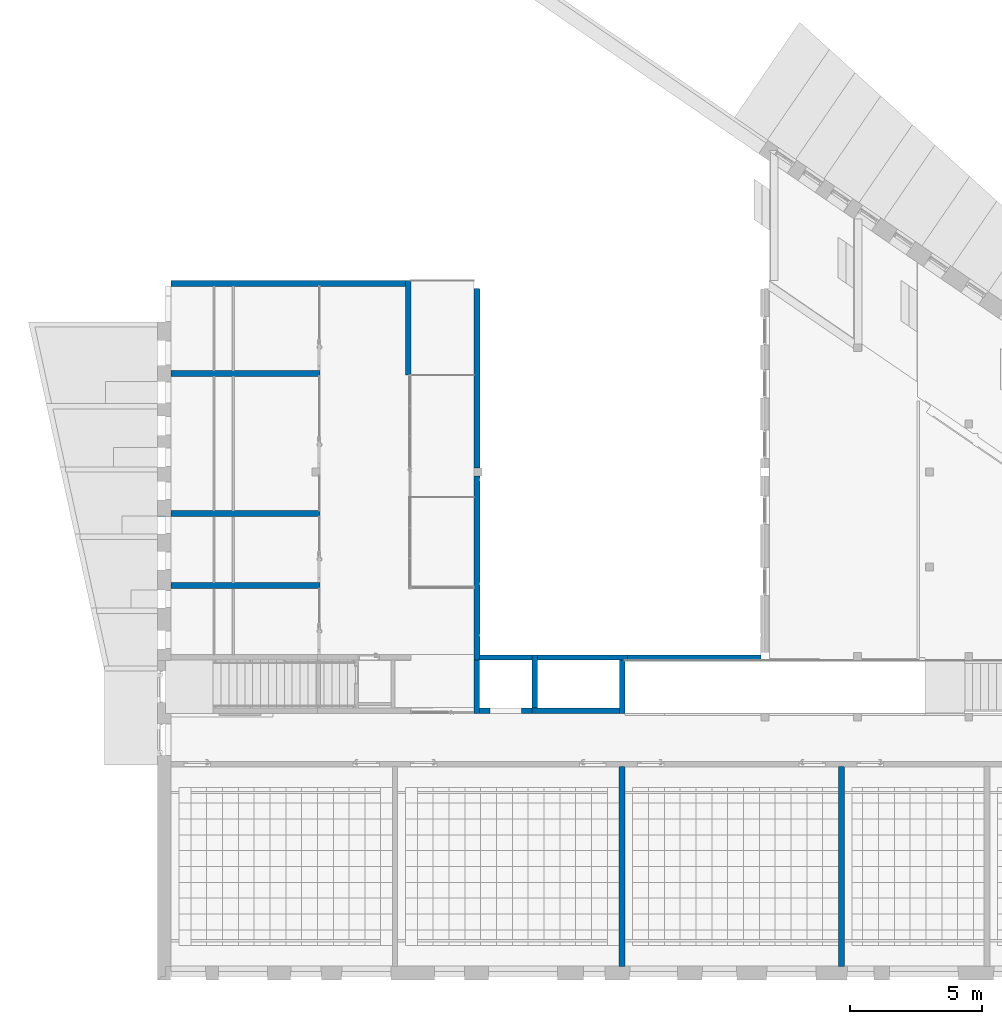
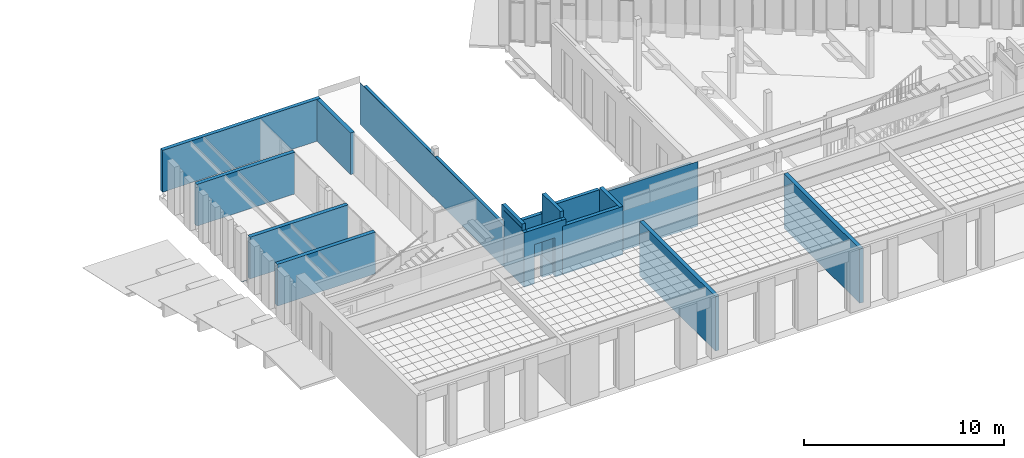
# One storey, part 40 of 79: 16 walls, 1 opening.
"""IFC2X3 building model written with IfcOpenShell, lengths in millimetres."""

from ifc_helpers import new_model, entity, si_unit, converted_unit, derived_unit, money_unit, direction, frame, origin_with_axes, place, context, subcontext, project, spatial, faceted_brep, material, material_list, type_object, element, save


model = new_model("IFC2X3")

# Units and contexts
model_context = context("Model", 3, precision=0.01, world=origin_with_axes(), true_north=direction((0.0, 1.0)))
body_context = subcontext(model_context, "Body", "Model", "MODEL_VIEW")
ifc_project = project(units=[si_unit("LENGTHUNIT", "METRE", prefix="MILLI"), si_unit("AREAUNIT", "SQUARE_METRE"), si_unit("VOLUMEUNIT", "CUBIC_METRE"), converted_unit("PLANEANGLEUNIT", "DEGREE", entity("IfcPlaneAngleMeasure", 0.0174532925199), si_unit("PLANEANGLEUNIT", "RADIAN"), dimensions=[0, 0, 0, 0, 0, 0, 0]), si_unit("SOLIDANGLEUNIT", "STERADIAN"), money_unit("EUR"), converted_unit("TIMEUNIT", "Year", entity("IfcTimeMeasure", 31556926.0), si_unit("TIMEUNIT", "SECOND"), dimensions=[0, 0, 1, 0, 0, 0, 0]), si_unit("MASSUNIT", "GRAM", prefix="KILO"), si_unit("THERMODYNAMICTEMPERATUREUNIT", "DEGREE_CELSIUS"), si_unit("LUMINOUSINTENSITYUNIT", "LUMEN"), si_unit("ENERGYUNIT", "JOULE", prefix="MEGA"), derived_unit("THERMALCONDUCTANCEUNIT", [(si_unit("POWERUNIT", "WATT"), 1), (si_unit("LENGTHUNIT", "METRE"), -1), (si_unit("THERMODYNAMICTEMPERATUREUNIT", "KELVIN"), -1)]), derived_unit("SPECIFICHEATCAPACITYUNIT", [(si_unit("ENERGYUNIT", "JOULE"), 1), (si_unit("MASSUNIT", "GRAM", prefix="KILO"), -1), (si_unit("THERMODYNAMICTEMPERATUREUNIT", "KELVIN"), -1)]), derived_unit("MASSDENSITYUNIT", [(si_unit("MASSUNIT", "GRAM", prefix="KILO"), 1), (si_unit("VOLUMEUNIT", "CUBIC_METRE"), -1)])], contexts=[model_context])

# Site, building, storey
site_placement = place(None, origin_with_axes())
site = spatial("IfcSite", under=ifc_project, at=site_placement, Name="L.Koidula tn 11b", CompositionType="ELEMENT")
building_placement = place(site_placement, origin_with_axes())
building = spatial("IfcBuilding", under=site, at=building_placement, Name="Rakvere Riigigümnaasium", CompositionType="ELEMENT")
storey_placement = place(building_placement, frame((0.0, 0.0, 3720.0), z_axis=(0.0, 0.0, 1.0), x_axis=(1.0, 0.0, 0.0)))
storey = spatial("IfcBuildingStorey", under=building, at=storey_placement, Name="2.korrus +3,72", CompositionType="ELEMENT", Elevation=3720.0)

# Walls
ifc_material_1 = material(Name="Betoon element / plaat")
wall_type_1 = type_object("IfcWallType", Name="SS-01 200", PredefinedType="NOTDEFINED")
wall_1_placement = place(storey_placement, frame((52499.9999937, 17110.4555095, -1395.0), z_axis=(0.0, 0.0, 1.0), x_axis=(-1.0, 0.0, 0.0)))
element("IfcWall", 1, at=wall_1_placement, inside=storey, type_object=wall_type_1, material=ifc_material_1, Name="Sisesein", context=body_context, shape_type="Brep", body=[
    faceted_brep([(0.0, -200.0, 4197.4514176), (0.0, -200.0, 3890.0), (-310.0, -200.0, 3890.0), (-310.0, -200.0, 0.0), (3299.99999988, -200.0, 0.0), (3299.99999988, -200.0, 1395.0), (3100.00000001, -200.0, 1395.0), (3100.00000001, -200.0, 4197.4514176), (0.0, 2.82014411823e-08, 3890.0), (0.0, 0.0, 4197.4514176), (0.0, 2.82014411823e-08, 3945.0), (-310.0, 2.60769184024e-08, 3890.0), (-310.0, 0.0, 0.0), (3299.99999988, 0.0, 0.0), (3299.99999988, 0.0, 1395.0), (3100.00000001, 0.0, 1395.0), (3100.00000001, 0.0, 4197.4514176)], [[[0, 1, 2, 3, 4, 5, 6, 7]], [[8, 1, 0, 9, 10]], [[8, 11, 2, 1]], [[3, 2, 11, 12]], [[4, 3, 12, 13]], [[4, 13, 14, 5]], [[14, 15, 6, 5]], [[6, 15, 16, 7]], [[7, 16, 9, 0]], [[11, 8, 10, 9, 16, 15, 14, 13, 12]]]),
])
wall_2_placement = place(storey_placement, frame((49199.9999938, 17110.4555095, 0.0), z_axis=(0.0, 0.0, 1.0), x_axis=(-1.0, 0.0, 0.0)))
element("IfcWall", 2, at=wall_2_placement, inside=storey, type_object=wall_type_1, material=ifc_material_1, Name="Sisesein", context=body_context, shape_type="Brep", body=[
    faceted_brep([(2000.00000003, -200.0, 0.0), (2000.00000003, -200.0, 2495.0), (1.29396937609e-07, -200.0, 2495.0), (1.29396937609e-07, -200.0, 0.0), (2000.00000003, 0.0, 0.0), (2000.00000003, -2.51142040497e-06, 2495.0), (1.29396937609e-07, -2.52511966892e-06, 2495.0), (1.29396937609e-07, 0.0, 0.0)], [[[0, 1, 2, 3]], [[4, 5, 1, 0]], [[5, 6, 2, 1]], [[3, 2, 6, 7]], [[4, 0, 3, 7]], [[7, 6, 5, 4]]]),
])
wall_3_placement = place(storey_placement, frame((49199.9999937, 15100.4785302, 0.0), z_axis=(0.0, 0.0, 1.0), x_axis=(0.0, 1.0, 0.0)))
element("IfcWall", 3, at=wall_3_placement, inside=storey, type_object=wall_type_1, material=ifc_material_1, Name="Sisesein", context=body_context, shape_type="Brep", body=[
    faceted_brep([(2209.97697926, 0.0, 0.0), (2209.97697926, -1.15200293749e-07, 2495.0), (2209.97697926, -200.000000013, 2495.0), (2209.97697926, -200.0, 0.0), (2009.97698179, -1.29396937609e-07, 2802.4514176), (2009.97698179, 0.0, 2495.0), (200.001660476, 0.0, 0.0), (200.001660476, 0.0, 2945.0), (0.00168146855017, 0.0, 2945.0), (0.0, 0.0, 3325.0), (199.253246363, 0.0, 3325.0), (199.253246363, 0.0, 3720.0), (2009.97698659, 0.0, 3720.0), (2009.97697926, -1.29396937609e-07, 2945.0), (2009.97698179, -200.000000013, 2495.0), (2009.97698179, -200.000000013, 2802.4514176), (2009.97698618, -200.0, 3720.0), (199.253246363, -200.0, 3720.0), (199.253246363, -200.0, 3325.0), (0.0, -200.0, 3325.0), (0.00168261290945, -200.0, 2945.0), (200.001565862, -200.0, 2945.0), (200.001565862, -200.0, 0.0)], [[[0, 1, 2, 3]], [[4, 5, 1, 0, 6, 7, 8, 9, 10, 11, 12, 13]], [[5, 14, 2, 1]], [[2, 14, 15, 16, 17, 18, 19, 20, 21, 22, 3]], [[0, 3, 22, 6]], [[16, 15, 14, 5, 4, 13, 12]], [[7, 6, 22, 21]], [[8, 7, 21, 20]], [[20, 19, 9, 8]], [[9, 19, 18, 10]], [[17, 11, 10, 18]], [[12, 11, 17, 16]]]),
])
ifc_material_2 = material(Name="siseviimistlus-seinad")
ifc_material_list_1 = material_list([ifc_material_2, ifc_material_1, ifc_material_2])
wall_type_2 = type_object("IfcWallType", Name="SS-01-2 220", PredefinedType="NOTDEFINED")
wall_4_placement = place(storey_placement, frame((46999.9999935, 17110.4555095, 0.0), z_axis=(0.0, 0.0, 1.0), x_axis=(0.0, 1.0, 0.0)))
element("IfcWall", 4, at=wall_4_placement, inside=storey, type_object=wall_type_2, material=ifc_material_list_1, Name="Sisesein", context=body_context, shape_type="Brep", body=[
    faceted_brep([(14390.0000057, 10.0, 2549.99998033), (200.0, 10.0, 2549.99998082), (200.0, 0.0, 2549.99998082), (14390.0000057, 0.0, 2549.99998033), (14389.9999908, 10.0, 0.0), (200.0, 10.0, 0.0), (14390.0000057, 10.0, 2495.0), (200.0, 0.0, 0.0), (14389.9999908, 0.0, 0.0)], [[[0, 1, 2, 3]], [[4, 5, 1, 0, 6]], [[5, 7, 2, 1]], [[3, 2, 7, 8]], [[8, 4, 6, 0, 3]], [[8, 7, 5, 4]]]),
    faceted_brep([(6990.00003772, -200.0, 0.0), (6990.00003772, -200.0, 2495.0), (2.51142040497e-06, -200.0, 2495.0), (0.0, -200.0, 0.0), (6990.00003772, -0.00139961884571, 2495.0), (6990.00003772, -0.00139961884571, 0.0), (2.51004905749e-06, -2.74283706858e-07, 2495.0), (0.0, 0.0, 0.0)], [[[0, 1, 2, 3]], [[4, 1, 0, 5]], [[1, 4, 6, 2]], [[3, 2, 6, 7]], [[5, 0, 3, 7]], [[4, 5, 7, 6]]]),
    faceted_brep([(14089.999985, -200.0, 0.0), (14089.999985, -200.0, 2495.0), (7290.00003772, -200.0, 2495.0), (7290.00003772, -200.0, 0.0), (14089.999985, -6.95239350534e-05, 2495.0), (14089.999985, -6.95239350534e-05, 0.0), (7290.00003772, -0.00139961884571, 2495.0), (7290.00003772, -0.00139961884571, 0.0)], [[[0, 1, 2, 3]], [[4, 1, 0, 5]], [[1, 4, 6, 2]], [[3, 2, 6, 7]], [[5, 0, 3, 7]], [[4, 5, 7, 6]]]),
    faceted_brep([(6990.00003772, -210.0, 0.0), (6990.00003772, -210.0, 2495.0), (6891.00071017, -210.0, 2495.0), (6891.00071017, -210.0, 0.0), (6990.00003772, -200.0, 2495.0), (6990.00003772, -200.0, 0.0), (6891.00071017, -200.0, 2495.0), (6891.00071017, -200.0, 0.0)], [[[0, 1, 2, 3]], [[4, 1, 0, 5]], [[1, 4, 6, 2]], [[3, 2, 6, 7]], [[5, 0, 3, 7]], [[4, 5, 7, 6]]]),
    faceted_brep([(7290.00003772, -200.0, 2495.0), (7290.00003772, -210.0, 2495.0), (14080.0000057, -210.0, 2495.0), (14080.0000057, -200.0, 2495.0), (7290.00003772, -210.0, 0.0), (7290.00003772, -200.0, 0.0), (14080.0000057, -210.0, 0.0), (14080.0000057, -200.0, 0.0)], [[[0, 1, 2, 3]], [[4, 1, 0, 5]], [[1, 4, 6, 2]], [[7, 3, 2, 6]], [[5, 0, 3, 7]], [[4, 5, 7, 6]]]),
    faceted_brep([(909.0, -200.0, 2495.0), (909.0, -210.0, 2495.0), (909.0, -210.0, 0.0), (909.0, -200.0, 0.0), (200.0, -210.0, 2495.0), (200.0, -200.00000027, 2495.0), (200.0, -210.0, 0.0), (200.0, -200.00000027, 0.0)], [[[0, 1, 2, 3]], [[4, 1, 0, 5]], [[1, 4, 6, 2]], [[2, 6, 7, 3]], [[5, 0, 3, 7]], [[4, 5, 7, 6]]]),
    faceted_brep([(2849.99999981, -200.0, 2495.0), (2849.99999981, -210.0, 2495.0), (2849.99999981, -210.0, 0.0), (2849.99999981, -200.0, 0.0), (1004.0, -200.0, 2495.0), (1004.0, -210.0, 2495.0), (1004.0, -210.0, 0.0), (1004.0, -200.0, 0.0)], [[[0, 1, 2, 3]], [[1, 0, 4, 5]], [[1, 5, 6, 2]], [[7, 3, 2, 6]], [[0, 3, 7, 4]], [[5, 4, 7, 6]]]),
    faceted_brep([(6796.00071017, -200.0, 2495.0), (6796.00071017, -210.0, 2495.0), (6796.00071017, -210.0, 0.0), (6796.00071017, -200.0, 0.0), (2944.99999981, -210.0, 2495.0), (2944.99999981, -200.0, 2495.0), (2944.99999981, -210.0, 0.0), (2944.99999981, -200.0, 0.0)], [[[0, 1, 2, 3]], [[4, 1, 0, 5]], [[1, 4, 6, 2]], [[2, 6, 7, 3]], [[5, 0, 3, 7]], [[4, 5, 7, 6]]]),
])
for number, where, z_axis, x_axis in (
    (5, (52499.9766386, 13280.4543717, 0.0), (0.0, 0.0, 1.0), (0.0, -1.0, 0.0)),
    (6, (60820.0162917, 13280.4543717, 0.0), (0.0, 0.0, 1.0), (0.0, -1.0, 0.0)),
):
    element("IfcWall", number, at=place(storey_placement, frame(where, z_axis=z_axis, x_axis=x_axis)), inside=storey, type_object=wall_type_2, material=ifc_material_list_1, Name="Sisesein", context=body_context, shape_type="Brep", body=[
        faceted_brep([(7779.99883287, 200.0, 3320.0), (7779.99883287, 210.0, 3320.0), (210.0, 210.0, 3320.00000006), (210.0, 200.0, 3320.00000006), (7779.99883287, 200.0, 0.0), (7779.99883287, 210.0, 0.0), (210.0, 210.0, 0.0), (210.0, 200.0, 0.0)], [[[0, 1, 2, 3]], [[1, 0, 4, 5]], [[1, 5, 6, 2]], [[3, 2, 6, 7]], [[0, 3, 7, 4]], [[5, 4, 7, 6]]]),
        faceted_brep([(7779.99883287, 0.0, 3320.0), (7779.99883287, 200.0, 3320.0), (200.0, 200.0, 3320.00000006), (200.0, 0.0, 3320.00000006), (7779.99883287, 0.0, 0.0), (7779.99883287, 200.0, 0.0), (200.0, 200.0, 0.0), (200.0, 0.0, 0.0)], [[[0, 1, 2, 3]], [[1, 0, 4, 5]], [[1, 5, 6, 2]], [[3, 2, 6, 7]], [[0, 3, 7, 4]], [[5, 4, 7, 6]]]),
        faceted_brep([(7779.99883287, -10.0, 3320.0), (7779.99883287, 0.0, 3320.0), (210.0, 0.0, 3320.00000006), (210.0, -10.0, 3320.00000006), (7779.99883287, -10.0, 0.0), (7779.99883287, 0.0, 0.0), (210.0, 0.0, 0.0), (210.0, -10.0, 0.0)], [[[0, 1, 2, 3]], [[1, 0, 4, 5]], [[1, 5, 6, 2]], [[3, 2, 6, 7]], [[0, 3, 7, 4]], [[5, 4, 7, 6]]]),
    ])
wall_5_placement = place(storey_placement, frame((44609.9999911, 27920.4556829, 0.0), z_axis=(0.0, 0.0, 1.0), x_axis=(0.0, 1.0, 0.0)))
element("IfcWall", 7, at=wall_5_placement, inside=storey, type_object=wall_type_2, material=ifc_material_list_1, Name="Sisesein", context=body_context, shape_type="Brep", body=[
    faceted_brep([(3379.99982813, 210.0, 0.0), (0.0, 210.0, 0.0), (0.0, 220.0, 0.0), (3379.99982813, 220.0, 0.0), (3379.99982813, 210.0, 2545.0), (0.0, 210.0, 2545.0), (0.0, 220.0, 2545.0), (3379.99982813, 220.0, 2545.0)], [[[0, 1, 2, 3]], [[4, 5, 1, 0]], [[2, 1, 5, 6]], [[3, 2, 6, 7]], [[3, 7, 4, 0]], [[7, 6, 5, 4]]]),
    faceted_brep([(3579.99982813, 10.0, 0.0), (0.0, 10.0, 0.0), (0.0, 210.0, 0.0), (3579.99982813, 210.0, 0.0), (3579.99982813, 10.0, 2545.0), (0.0, 10.0, 2545.0), (0.0, 210.0, 2545.0), (3579.99982813, 210.0, 2545.0)], [[[0, 1, 2, 3]], [[4, 5, 1, 0]], [[2, 1, 5, 6]], [[3, 2, 6, 7]], [[3, 7, 4, 0]], [[7, 6, 5, 4]]]),
    faceted_brep([(3579.99982813, 0.0, 0.0), (0.0, 0.0, 0.0), (0.0, 10.0, 0.0), (3579.99982813, 10.0, 0.0), (3579.99982813, 0.0, 2545.0), (0.0, 0.0, 2545.0), (0.0, 10.0, 2545.0), (3579.99982813, 10.0, 2545.0)], [[[0, 1, 2, 3]], [[4, 5, 1, 0]], [[2, 1, 5, 6]], [[3, 2, 6, 7]], [[3, 7, 4, 0]], [[7, 6, 5, 4]]]),
])
ifc_material_list_2 = material_list([ifc_material_2, ifc_material_1])
wall_type_3 = type_object("IfcWallType", Name="SS-01-1 210", PredefinedType="NOTDEFINED")
wall_6_placement = place(storey_placement, frame((46999.9999938, 15100.4754498, 0.0), z_axis=(0.0, 0.0, 1.0), x_axis=(0.0, 1.0, 0.0)))
element("IfcWall", 8, at=wall_6_placement, inside=storey, type_object=wall_type_3, material=ifc_material_list_2, Name="Sisesein", context=body_context, shape_type="Brep", body=[
    faceted_brep([(2209.98005935, 0.00010162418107, 2940.0), (2219.98005973, 0.00010162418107, 2940.0), (2219.98005973, 0.0, 3720.0), (2209.98006569, -2.32378027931e-06, 3720.0), (2219.98005973, 9.99999745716, 2940.0), (2209.98005935, 9.9999989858, 2940.0), (2219.98005973, 10.0, 3720.0), (2209.98006568, 9.99999999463, 3720.0)], [[[0, 1, 2, 3]], [[4, 1, 0, 5]], [[1, 4, 6, 2]], [[6, 7, 3, 2]], [[5, 0, 3, 7]], [[4, 5, 7, 6]]]),
    faceted_brep([(2009.98005909, 9.99999909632, 3470.0), (2009.9800592, -3.01974978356e-06, 3470.0), (2009.98005973, -1.26797772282e-05, 0.0), (2009.98005973, 9.99999618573, 0.0), (2009.98005973, 9.99999618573, 2549.99998083), (200.000628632, -2.02357597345e-06, 3470.0), (200.000642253, 9.99999718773, 3470.0), (200.000628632, -2.32378027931e-06, 3325.0), (0.0, -1.41561429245e-06, 3325.0), (-9.99525078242, -1.41561429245e-06, 3325.0), (-9.99525078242, -5.98106453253e-07, 0.0), (-9.99525078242, 9.99999982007, 0.0), (-9.99525078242, 9.99999880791, 3325.0), (0.0, 9.99999880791, 3325.0), (200.000642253, 9.99999618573, 3325.0)], [[[0, 1, 2, 3, 4]], [[5, 1, 0, 6]], [[1, 5, 7, 8, 9, 10, 2]], [[3, 2, 10, 11]], [[6, 0, 4, 3, 11, 12, 13, 14]], [[5, 6, 14, 7]], [[14, 13, 12, 9, 8, 7]], [[11, 10, 9, 12]]]),
    faceted_brep([(2009.98006224, -200.0, 2549.99998083), (2009.98006224, -200.0, 2815.0), (2209.98006103, -200.0, 2815.0), (2209.98006548, -200.0, 3720.0), (200.000356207, -199.999994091, 3720.0), (200.000356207, -199.999994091, 3325.0), (199.256326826, -199.999994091, 3325.0), (0.00474921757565, -200.0, 3325.0), (0.00475107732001, -200.0, 0.0), (2009.98005973, -200.0, 0.0), (2009.98005973, -1.26797772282e-05, 0.0), (2009.98006224, 0.0, 2549.99998083), (2009.98006224, 0.0, 2815.0), (2209.98006108, 0.0, 2815.0), (2209.98006569, -6.37356833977e-09, 3720.0), (200.000628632, -1.28807897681e-06, 3720.0), (200.000628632, -9.90503679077e-06, 3325.0), (0.000504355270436, -1.33515953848e-06, 3325.0), (0.00474987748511, -6.5791994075e-07, 0.0)], [[[0, 1, 2, 3, 4, 5, 6, 7, 8, 9]], [[1, 0, 9, 10, 11, 12]], [[13, 2, 1, 12]], [[2, 13, 14, 3]], [[15, 4, 3, 14]], [[15, 16, 5, 4]], [[16, 17, 7, 6, 5]], [[7, 17, 18, 8]], [[9, 8, 18, 10]], [[12, 11, 10, 18, 17, 16, 15, 14, 13]]]),
])

# Wall, opening
ifc_material_list_3 = material_list([ifc_material_1, ifc_material_2])
wall_7_placement = place(storey_placement, frame((46999.9999938, 15100.480199, 0.0), z_axis=(0.0, 0.0, 1.0), x_axis=(1.0, 0.0, 0.0)))
wall_7 = element("IfcWall", 9, at=wall_7_placement, inside=storey, type_object=wall_type_3, material=ifc_material_list_3, Name="Sisesein", context=body_context, shape_type="Brep", body=[
    faceted_brep([(590.000111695, 200.0, 2400.0), (590.000111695, 199.999995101, 0.0), (199.999999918, 199.99999783, 0.0), (199.999999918, 200.0, 3325.0), (2199.99999982, 200.0, 3325.0), (2199.99999982, 199.999983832, 2945.0), (2199.99999982, 199.999983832, 0.0), (1790.00011169, 199.999986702, 0.0), (1790.00011169, 200.0, 2400.0), (590.000111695, 1.38580933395e-05, 2400.0), (590.000111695, 4.19942303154e-06, 0.0), (199.999999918, 1.85974435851e-06, 0.0), (199.999999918, 0.0, 3325.0), (2199.99999982, 0.0, 3325.0), (2199.99999982, 1.38580933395e-05, 0.0), (1790.00011169, 1.13984324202e-05, 0.0), (1790.00011169, 1.38580933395e-05, 2400.0)], [[[0, 1, 2, 3, 4, 5, 6, 7, 8]], [[1, 0, 9, 10]], [[1, 10, 11, 2]], [[3, 2, 11, 12]], [[13, 4, 3, 12]], [[4, 13, 14, 6, 5]], [[15, 7, 6, 14]], [[8, 7, 15, 16]], [[0, 8, 16, 9]], [[16, 15, 14, 13, 12, 11, 10, 9]]]),
    faceted_brep([(590.000111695, 1.38580933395e-05, 2400.0), (590.000111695, 4.19942303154e-06, 0.0), (-8.23021650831e-08, 6.5990946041e-07, 0.0), (-8.23021650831e-08, 0.0, 3325.0), (2399.99999982, 0.0, 3325.0), (2399.99999982, 1.38580933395e-05, 2945.0), (2199.99999982, 1.38580933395e-05, 2945.0), (2199.99999982, 1.38580933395e-05, 0.0), (1790.00011169, 1.13984324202e-05, 0.0), (1790.00011169, 1.38580933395e-05, 2400.0), (590.000111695, -10.0, 2400.0), (590.000111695, -10.0, 0.0), (-8.23021650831e-08, -10.0, 0.0), (-8.23021650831e-08, -10.0, 3325.0), (2399.99999982, -10.0, 3325.0), (2399.99999982, -10.0, 2945.0), (2199.99999982, -10.0, 2945.0), (2199.99999982, -10.0, 0.0), (1790.00011169, -10.0, 0.0), (1790.00011169, -10.0, 2400.0)], [[[0, 1, 2, 3, 4, 5, 6, 7, 8, 9]], [[1, 0, 10, 11]], [[1, 11, 12, 2]], [[2, 12, 13, 3]], [[14, 4, 3, 13]], [[15, 5, 4, 14]], [[5, 15, 16, 6]], [[7, 6, 16, 17]], [[18, 8, 7, 17]], [[9, 8, 18, 19]], [[0, 9, 19, 10]], [[19, 18, 17, 16, 15, 14, 13, 12, 11, 10]]]),
])
opening_placement = place(wall_7_placement, frame((1190.00011169, 0.0, 0.0), z_axis=(0.0, 0.0, 1.0), x_axis=(1.0, 0.0, 0.0)))
element("IfcOpeningElement", 10, at=opening_placement, cuts=wall_7, Name="ava", context=body_context, shape_type="Brep", body=[
    faceted_brep([(-600.0, -420.0, 0.0), (-600.0, -420.0, 2400.0), (-600.0, 210.0, 2400.0), (-600.0, 210.0, 0.0), (600.0, -420.0, 0.0), (600.0, -420.0, 2400.0), (600.0, 210.0, 2400.0), (600.0, 210.0, 0.0)], [[[0, 1, 2, 3]], [[0, 4, 5, 1]], [[1, 5, 6, 2]], [[3, 2, 6, 7]], [[4, 0, 3, 7]], [[5, 4, 7, 6]]]),
])

# Walls
wall_8_placement = place(storey_placement, frame((58180.0348101, 17110.4555095, -1395.0), z_axis=(0.0, 0.0, 1.0), x_axis=(-1.0, 0.0, 0.0)))
element("IfcWall", 11, at=wall_8_placement, inside=storey, type_object=wall_type_3, material=ifc_material_list_2, Name="Sisesein", context=body_context, shape_type="Brep", body=[
    faceted_brep([(5480.03481598, 0.0, 0.0), (5480.03481643, 0.0, 3945.0), (0.0, 0.0, 3945.0), (0.0, 0.0, 0.0), (5480.03481598, 10.0, 0.0), (5480.03481643, 10.0, 3945.0), (0.0, 10.0, 3945.0), (0.0, 10.0, 0.0)], [[[0, 1, 2, 3]], [[4, 5, 1, 0]], [[2, 1, 5, 6]], [[6, 7, 3, 2]], [[7, 4, 0, 3]], [[6, 5, 4, 7]]]),
    faceted_brep([(299.999928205, 0.0, 3890.0), (299.999928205, -200.0, 3890.0), (5370.03481643, -200.0, 3890.0), (5370.03481643, 2.60769184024e-08, 3890.0), (299.999928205, -200.0, 0.0), (299.999928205, 0.0, 0.0), (5370.03481643, -200.0, 0.0), (5370.03481643, 0.0, 0.0)], [[[0, 1, 2, 3]], [[4, 1, 0, 5]], [[1, 4, 6, 2]], [[7, 3, 2, 6]], [[5, 0, 3, 7]], [[4, 5, 7, 6]]]),
])
wall_9_placement = place(storey_placement, frame((52499.9999937, 15100.4785302, 0.0), z_axis=(0.0, 0.0, 1.0), x_axis=(0.0, 1.0, 0.0)))
element("IfcWall", 12, at=wall_9_placement, inside=storey, type_object=wall_type_3, material=ifc_material_list_3, Name="Sisesein", context=body_context, shape_type="Brep", body=[
    faceted_brep([(2009.97697924, -200.0, 2550.0), (2009.97697924, -200.0, 2802.4514176), (2009.97697927, -200.0, 2945.0), (0.0, -200.0, 2945.00000007), (0.0, -200.0, 0.0), (2009.97697926, -200.0, 0.0), (2009.97697926, -7.90386422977e-07, 0.0), (2009.97697924, 0.0, 2550.0), (2009.97697924, 0.0, 2802.4514176), (2009.97697934, 0.0, 2945.0), (0.0, 0.0, 2945.00000007), (0.0, 0.0, 0.0)], [[[0, 1, 2, 3, 4, 5]], [[1, 0, 5, 6, 7, 8, 9, 2]], [[3, 2, 9, 10]], [[11, 4, 3, 10]], [[11, 6, 5, 4]], [[8, 7, 6, 11, 10, 9]]]),
    faceted_brep([(2009.97697924, -210.0, 2550.0), (2009.97697924, -210.0, 2945.0), (-10.0, -210.0, 2945.00000006), (-10.0, -210.0, 0.0), (1999.97697926, -210.0, 0.0), (1999.97697926, -210.0, 2550.0), (2009.97697924, -200.0, 2550.0), (2009.97697924, -200.0, 2945.0), (-10.0, -200.0, 2945.00000006), (-10.0, -200.0, 0.0), (1999.97697926, -200.0, 0.0), (1999.97697926, -200.0, 2550.0)], [[[0, 1, 2, 3, 4, 5]], [[1, 0, 6, 7]], [[1, 7, 8, 2]], [[9, 3, 2, 8]], [[9, 10, 4, 3]], [[11, 5, 4, 10]], [[6, 0, 5, 11]], [[6, 11, 10, 9, 8, 7]]]),
])
wall_10_placement = place(storey_placement, frame((49199.9999937, 15100.4785302, 0.0), z_axis=(0.0, 0.0, 1.0), x_axis=(1.0, 0.0, 0.0)))
element("IfcWall", 13, at=wall_10_placement, inside=storey, type_object=wall_type_3, material=ifc_material_list_3, Name="Sisesein", context=body_context, shape_type="Brep", body=[
    faceted_brep([(0.0, 0.0, 0.0), (0.0, 200.0, 0.0), (3300.00000001, 200.0, 0.0), (3300.00000001, 0.0, 0.0), (0.0, 0.0, 2945.0), (0.0, 200.0, 2945.0), (3300.00000001, 200.0, 2945.0), (3300.00000001, 0.0, 2945.0)], [[[0, 1, 2, 3]], [[4, 5, 1, 0]], [[1, 5, 6, 2]], [[7, 3, 2, 6]], [[4, 0, 3, 7]], [[5, 4, 7, 6]]]),
    faceted_brep([(0.0, 0.0, 0.0), (3500.00000001, 0.0, 0.0), (3500.00000001, -10.0, 0.0), (0.0, -10.0, 0.0), (0.0, 0.0, 2945.0), (3500.00000001, 0.0, 2945.0), (3500.00000001, -10.0, 2945.0), (0.0, -10.0, 2945.0)], [[[0, 1, 2, 3]], [[4, 5, 1, 0]], [[2, 1, 5, 6]], [[3, 2, 6, 7]], [[4, 0, 3, 7]], [[7, 6, 5, 4]]]),
])
wall_11_placement = place(storey_placement, frame((44609.9999911, 31500.4555111, 0.0), z_axis=(0.0, 0.0, 1.0), x_axis=(-1.0, 0.0, 0.0)))
element("IfcWall", 14, at=wall_11_placement, inside=storey, type_object=wall_type_3, material=ifc_material_list_2, Name="Sisesein", context=body_context, shape_type="Brep", body=[
    faceted_brep([(9109.99993896, 200.0, 2550.0), (0.0, 200.0, 2550.0), (0.0, 200.0, 2545.0), (220.0, 200.0, 2545.0), (220.0, 200.0, 0.0), (9109.99993896, 200.0, 0.0), (0.0, 210.0, 2550.0), (9109.99993896, 210.0, 2550.0), (0.0, 210.0, 2545.0), (220.0, 210.0, 2545.0), (220.0, 210.0, 0.0), (9109.99993896, 210.0, 0.0)], [[[0, 1, 2, 3, 4, 5]], [[6, 1, 0, 7]], [[1, 6, 8, 2]], [[2, 8, 9, 3]], [[10, 4, 3, 9]], [[5, 4, 10, 11]], [[7, 0, 5, 11]], [[6, 7, 11, 10, 9, 8]]]),
    faceted_brep([(9109.99993896, 0.0, 2550.0), (0.0, 0.0, 2550.0), (0.0, 0.0, 2545.0), (210.0, 0.0, 2545.0), (210.0, 0.0, 0.0), (9109.99993896, 0.0, 0.0), (0.0, 200.0, 2550.0), (9109.99993896, 200.0, 2550.0), (0.0, 200.0, 2545.0), (210.0, 200.0, 2545.0), (210.0, 200.0, 0.0), (9109.99993896, 200.0, 0.0)], [[[0, 1, 2, 3, 4, 5]], [[6, 1, 0, 7]], [[1, 6, 8, 2]], [[2, 8, 9, 3]], [[10, 4, 3, 9]], [[5, 4, 10, 11]], [[7, 0, 5, 11]], [[6, 7, 11, 10, 9, 8]]]),
])
ifc_material_3 = material(Name="Krohv")
ifc_material_4 = material(Name="Silikaat plokk")
ifc_material_list_4 = material_list([ifc_material_3, ifc_material_4, ifc_material_3])
wall_type_4 = type_object("IfcWallType", Name="SS-10 220", PredefinedType="NOTDEFINED")
wall_12_placement = place(storey_placement, frame((35500.0000521, 20050.4555224, -10.0000458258), z_axis=(0.0, 0.0, 1.0), x_axis=(1.0, 0.0, 0.0)))
element("IfcWall", 15, at=wall_12_placement, inside=storey, type_object=wall_type_4, material=ifc_material_list_4, Name="Sisesein", context=body_context, shape_type="Brep", body=[
    faceted_brep([(4019.99998377, -10.0, 10.0000458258), (5503.00726438, -10.0, 10.0000458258), (5650.00093, -10.0, 10.0000458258), (5650.00093, -10.0, 2555.00004583), (0.0, -10.0, 2555.00004583), (0.0, -10.0, 10.0000458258), (1219.99999858, -10.0, 10.0000458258), (1339.99999858, -10.0, 10.0000458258), (3610.00723347, -10.0, 10.0000458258), (3830.00723347, -10.0, 10.0000458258), (3913.49998377, -10.0, 10.0000458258), (0.0, 0.0, 10.0000458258), (1219.99999858, 0.0, 10.0000458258), (1339.99999858, 0.0, 10.0000458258), (3610.00723347, 0.0, 10.0000458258), (3830.00723347, 0.0, 10.0000458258), (3913.49998377, 0.0, 10.0000458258), (4019.99998377, 0.0, 10.0000458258), (5503.00726438, 0.0, 10.0000458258), (5650.00093, 0.0, 10.0000458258), (5650.00093, 0.0, 2555.00004583), (0.0, 0.0, 2555.00004583)], [[[0, 1, 2, 3, 4, 5, 6, 7, 8, 9, 10]], [[11, 12, 13, 14, 15, 16, 17, 18, 19, 2, 1, 0, 10, 9, 8, 7, 6, 5]], [[3, 2, 19, 20]], [[20, 21, 4, 3]], [[11, 5, 4, 21]], [[18, 17, 16, 15, 14, 13, 12, 11, 21, 20, 19]]]),
    faceted_brep([(3620.00723347, -210.0, 5.00004582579), (3620.00723347, -10.0, 5.00004582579), (3620.00723347, -10.0, 10.0000458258), (3620.00723347, -210.0, 10.0000458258), (0.0, -10.0, 5.00004582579), (0.0, -210.0, 5.00004582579), (5650.00093, -10.0, 5.00004582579), (3820.00723347, -10.0, 5.00004582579), (3820.00723347, -10.0, 10.0000458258), (0.0, -10.0, 2555.00004583), (5650.00093, -10.0, 2555.00004583), (3820.00723347, -210.0, 10.0000458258), (3820.00723347, -210.0, 5.00004582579), (5650.00093, -210.0, 5.00004582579), (5650.00093, -210.0, 2555.00004583), (0.0, -210.0, 2555.00004583)], [[[0, 1, 2, 3]], [[4, 1, 0, 5]], [[6, 7, 8, 2, 1, 4, 9, 10]], [[3, 2, 8, 11]], [[12, 13, 14, 15, 5, 0, 3, 11]], [[4, 5, 15, 9]], [[7, 6, 13, 12]], [[7, 12, 11, 8]], [[10, 9, 15, 14]], [[13, 6, 10, 14]]]),
    faceted_brep([(4019.99998377, -220.0, 10.0000458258), (5503.00726438, -220.0, 10.0000458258), (5650.00093, -220.0, 10.0000458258), (5650.00093, -220.0, 2555.00004583), (0.0, -220.0, 2555.00004583), (0.0, -220.0, 10.0000458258), (1219.99999858, -220.0, 10.0000458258), (1339.99999858, -220.0, 10.0000458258), (3610.00723347, -220.0, 10.0000458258), (3830.00723347, -220.0, 10.0000458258), (3913.49998377, -220.0, 10.0000458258), (0.0, -210.0, 10.0000458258), (1219.99999858, -210.0, 10.0000458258), (1339.99999858, -210.0, 10.0000458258), (3610.00723347, -210.0, 10.0000458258), (3830.00723347, -210.0, 10.0000458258), (3913.49998377, -210.0, 10.0000458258), (4019.99998377, -210.0, 10.0000458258), (5503.00726438, -210.0, 10.0000458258), (5650.00093, -210.0, 10.0000458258), (5650.00093, -210.0, 2555.00004583), (0.0, -210.0, 2555.00004583)], [[[0, 1, 2, 3, 4, 5, 6, 7, 8, 9, 10]], [[11, 12, 13, 14, 15, 16, 17, 18, 19, 2, 1, 0, 10, 9, 8, 7, 6, 5]], [[3, 2, 19, 20]], [[20, 21, 4, 3]], [[11, 5, 4, 21]], [[18, 17, 16, 15, 14, 13, 12, 11, 21, 20, 19]]]),
])
wall_13_placement = place(storey_placement, frame((35500.0000521, 22780.4555253, -10.0000458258), z_axis=(0.0, 0.0, 1.0), x_axis=(1.0, 0.0, 0.0)))
element("IfcWall", 16, at=wall_13_placement, inside=storey, type_object=wall_type_4, material=ifc_material_list_4, Name="Sisesein", context=body_context, shape_type="Brep", body=[
    faceted_brep([(4019.99998377, -10.0, 10.0000458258), (5503.00726438, -10.0, 10.0000458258), (5650.00093, -10.0, 10.0000458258), (5650.00093, -10.0, 2555.00004583), (0.0, -10.0, 2555.00004583), (0.0, -10.0, 10.0000458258), (3610.00723347, -10.0, 10.0000458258), (3830.00723347, -10.0, 10.0000458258), (3913.49998377, -10.0, 10.0000458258), (0.0, 0.0, 10.0000458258), (3610.00723347, 0.0, 10.0000458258), (3830.00723347, 0.0, 10.0000458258), (3913.49998377, 0.0, 10.0000458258), (4019.99998377, 0.0, 10.0000458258), (5503.00726438, 0.0, 10.0000458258), (5650.00093, 0.0, 10.0000458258), (5650.00093, 0.0, 2555.00004583), (0.0, 0.0, 2555.00004583)], [[[0, 1, 2, 3, 4, 5, 6, 7, 8]], [[9, 10, 11, 12, 13, 14, 15, 2, 1, 0, 8, 7, 6, 5]], [[3, 2, 15, 16]], [[16, 17, 4, 3]], [[9, 5, 4, 17]], [[14, 13, 12, 11, 10, 9, 17, 16, 15]]]),
    faceted_brep([(3620.00723347, -210.0, 5.00004582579), (3620.00723347, -10.0, 5.00004582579), (3620.00723347, -10.0, 10.0000458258), (3620.00723347, -210.0, 10.0000458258), (0.0, -10.0, 5.00004582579), (-200.000052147, -210.0, 5.00004582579), (-200.000052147, -200.0, 5.00004582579), (0.0, -200.0, 5.00004582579), (5650.00093, -10.0, 5.00004582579), (3820.00723347, -10.0, 5.00004582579), (3820.00723347, -10.0, 10.0000458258), (0.0, -10.0, 2555.00004583), (5650.00093, -10.0, 2555.00004583), (3820.00723347, -210.0, 10.0000458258), (3820.00723347, -210.0, 5.00004582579), (5650.00093, -210.0, 5.00004582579), (5650.00093, -210.0, 2555.00004583), (0.0, -210.0, 2555.00004583), (0.0, -210.0, 10.0000458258), (-514.0, -210.0, 10.0000458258), (-514.0, -210.0, 0.0), (-200.000052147, -210.0, 0.0), (-200.000052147, -200.0, 0.0), (-514.0, -200.0, 0.0), (-514.0, -200.0, 10.0000458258), (0.0, -200.0, 10.0000458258)], [[[0, 1, 2, 3]], [[4, 1, 0, 5, 6, 7]], [[8, 9, 10, 2, 1, 4, 11, 12]], [[3, 2, 10, 13]], [[14, 15, 16, 17, 18, 19, 20, 21, 5, 0, 3, 13]], [[22, 6, 5, 21]], [[6, 22, 23, 24, 25, 7]], [[4, 7, 25, 18, 17, 11]], [[9, 8, 15, 14]], [[9, 14, 13, 10]], [[12, 11, 17, 16]], [[15, 8, 12, 16]], [[18, 25, 24, 19]], [[19, 24, 23, 20]], [[22, 21, 20, 23]]]),
    faceted_brep([(-200.000052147, -220.0, 10.0000458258), (-200.000052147, -210.0, 10.0000458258), (-514.0, -210.0, 10.0000458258), (-514.0, -220.0, 10.0000458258), (-200.000052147, -220.0, 0.0), (-200.000052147, -210.0, 0.0), (-514.0, -210.0, 0.0), (-514.0, -220.0, 0.0)], [[[0, 1, 2, 3]], [[1, 0, 4, 5]], [[1, 5, 6, 2]], [[7, 3, 2, 6]], [[0, 3, 7, 4]], [[5, 4, 7, 6]]]),
    faceted_brep([(4019.99998377, -220.0, 10.0000458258), (5503.00726438, -220.0, 10.0000458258), (5650.00093, -220.0, 10.0000458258), (5650.00093, -220.0, 2555.00004583), (0.0, -220.0, 2555.00004583), (0.0, -220.0, 10.0000458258), (3610.00723347, -220.0, 10.0000458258), (3830.00723347, -220.0, 10.0000458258), (3913.49998377, -220.0, 10.0000458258), (0.0, -210.0, 10.0000458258), (3610.00723347, -210.0, 10.0000458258), (3830.00723347, -210.0, 10.0000458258), (3913.49998377, -210.0, 10.0000458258), (4019.99998377, -210.0, 10.0000458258), (5503.00726438, -210.0, 10.0000458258), (5650.00093, -210.0, 10.0000458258), (5650.00093, -210.0, 2555.00004583), (0.0, -210.0, 2555.00004583)], [[[0, 1, 2, 3, 4, 5, 6, 7, 8]], [[9, 10, 11, 12, 13, 14, 15, 2, 1, 0, 8, 7, 6, 5]], [[3, 2, 15, 16]], [[16, 17, 4, 3]], [[9, 5, 4, 17]], [[14, 13, 12, 11, 10, 9, 17, 16, 15]]]),
])
wall_14_placement = place(storey_placement, frame((35500.0000521, 27879.9592261, -10.0000458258), z_axis=(0.0, 0.0, 1.0), x_axis=(1.0, 0.0, 0.0)))
element("IfcWall", 17, at=wall_14_placement, inside=storey, type_object=wall_type_4, material=ifc_material_list_4, Name="Sisesein", context=body_context, shape_type="Brep", body=[
    faceted_brep([(5650.00093, 200.0, 10.0000458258), (5650.00093, 210.0, 10.0000458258), (5650.00093, 210.0, 2555.00004583), (5650.00093, 200.0, 2555.00004583), (0.0, 210.0, 10.0000458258), (0.0, 200.0, 10.0000458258), (0.0, 210.0, 2555.00004583), (0.0, 200.0, 2555.00004583)], [[[0, 1, 2, 3]], [[4, 1, 0, 5]], [[1, 4, 6, 2]], [[2, 6, 7, 3]], [[5, 0, 3, 7]], [[4, 5, 7, 6]]]),
    faceted_brep([(5650.00093, 0.0, 5.00004582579), (5650.00093, 200.0, 5.00004582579), (5650.00093, 200.0, 2555.00004583), (5650.00093, 0.0, 2555.00004583), (0.0, 200.0, 5.00004582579), (0.0, 0.0, 5.00004582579), (0.0, 200.0, 2555.00004583), (0.0, 0.0, 2555.00004583)], [[[0, 1, 2, 3]], [[4, 1, 0, 5]], [[1, 4, 6, 2]], [[2, 6, 7, 3]], [[5, 0, 3, 7]], [[4, 5, 7, 6]]]),
    faceted_brep([(5650.00093, -10.0, 10.0000458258), (5650.00093, 0.0, 10.0000458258), (5650.00093, 0.0, 2555.00004583), (5650.00093, -10.0, 2555.00004583), (0.0, 0.0, 10.0000458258), (0.0, -10.0, 10.0000458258), (0.0, 0.0, 2555.00004583), (0.0, -10.0, 2555.00004583)], [[[0, 1, 2, 3]], [[4, 1, 0, 5]], [[1, 4, 6, 2]], [[2, 6, 7, 3]], [[5, 0, 3, 7]], [[4, 5, 7, 6]]]),
])

save(model, "model.ifc")
